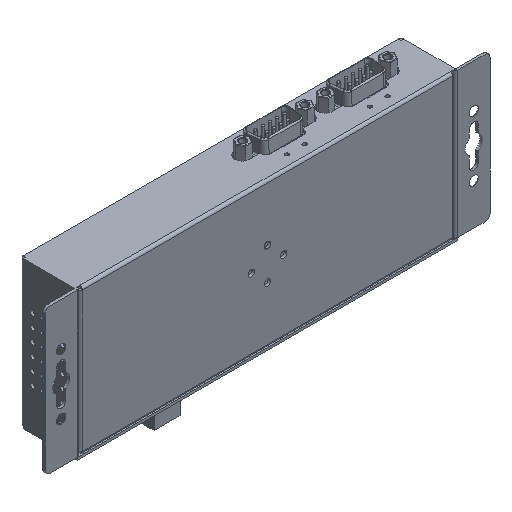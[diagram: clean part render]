
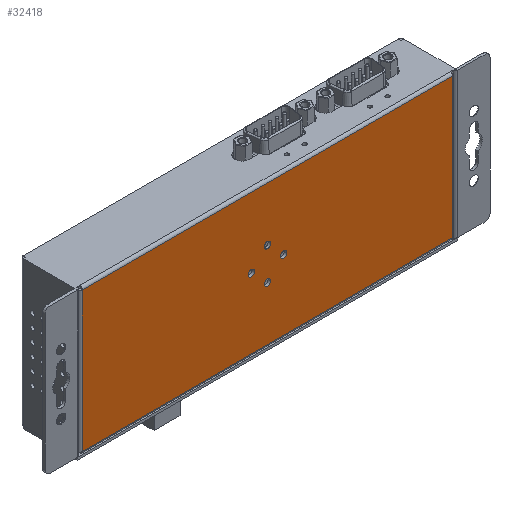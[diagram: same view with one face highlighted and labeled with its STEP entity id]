
A CAD part, isometric view. The second image highlights one B-rep face of the part: STEP entity #32418.
In plain terms, the highlighted planar face has unit normal (0, -1, 0).
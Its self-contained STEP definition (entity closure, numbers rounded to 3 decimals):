
#1626=FACE_BOUND('',#5986,.T.);
#1627=FACE_BOUND('',#5987,.T.);
#1628=FACE_BOUND('',#5988,.T.);
#1629=FACE_BOUND('',#5989,.T.);
#2319=CIRCLE('',#35047,1.265);
#2321=CIRCLE('',#35050,1.265);
#2323=CIRCLE('',#35053,1.265);
#2325=CIRCLE('',#35056,1.265);
#3911=FACE_OUTER_BOUND('',#5985,.T.);
#5985=EDGE_LOOP('',(#28178,#28179,#28180,#28181));
#5986=EDGE_LOOP('',(#28182));
#5987=EDGE_LOOP('',(#28183));
#5988=EDGE_LOOP('',(#28184));
#5989=EDGE_LOOP('',(#28185));
#9077=LINE('',#67379,#12302);
#9081=LINE('',#67395,#12306);
#9082=LINE('',#67401,#12307);
#9083=LINE('',#67402,#12308);
#12302=VECTOR('',#42469,10.);
#12306=VECTOR('',#42493,10.);
#12307=VECTOR('',#42502,10.);
#12308=VECTOR('',#42503,10.);
#15435=VERTEX_POINT('',#67169);
#15437=VERTEX_POINT('',#67175);
#15439=VERTEX_POINT('',#67181);
#15441=VERTEX_POINT('',#67187);
#15484=VERTEX_POINT('',#67365);
#15485=VERTEX_POINT('',#67369);
#15488=VERTEX_POINT('',#67394);
#15489=VERTEX_POINT('',#67400);
#19731=EDGE_CURVE('',#15435,#15435,#2319,.T.);
#19734=EDGE_CURVE('',#15437,#15437,#2321,.T.);
#19737=EDGE_CURVE('',#15439,#15439,#2323,.T.);
#19740=EDGE_CURVE('',#15441,#15441,#2325,.T.);
#19835=EDGE_CURVE('',#15484,#15485,#9077,.T.);
#19843=EDGE_CURVE('',#15488,#15484,#9081,.T.);
#19846=EDGE_CURVE('',#15485,#15489,#9082,.T.);
#19847=EDGE_CURVE('',#15489,#15488,#9083,.T.);
#28178=ORIENTED_EDGE('',*,*,#19835,.T.);
#28179=ORIENTED_EDGE('',*,*,#19846,.T.);
#28180=ORIENTED_EDGE('',*,*,#19847,.T.);
#28181=ORIENTED_EDGE('',*,*,#19843,.T.);
#28182=ORIENTED_EDGE('',*,*,#19731,.T.);
#28183=ORIENTED_EDGE('',*,*,#19734,.T.);
#28184=ORIENTED_EDGE('',*,*,#19737,.T.);
#28185=ORIENTED_EDGE('',*,*,#19740,.T.);
#30761=PLANE('',#35142);
#32418=ADVANCED_FACE('',(#3911,#1626,#1627,#1628,#1629),#30761,.T.);
#35047=AXIS2_PLACEMENT_3D('',#67170,#42229,#42230);
#35050=AXIS2_PLACEMENT_3D('',#67176,#42236,#42237);
#35053=AXIS2_PLACEMENT_3D('',#67182,#42243,#42244);
#35056=AXIS2_PLACEMENT_3D('',#67188,#42250,#42251);
#35142=AXIS2_PLACEMENT_3D('',#67399,#42500,#42501);
#42229=DIRECTION('center_axis',(0.,1.,0.));
#42230=DIRECTION('ref_axis',(0.,0.,-1.));
#42236=DIRECTION('center_axis',(0.,1.,0.));
#42237=DIRECTION('ref_axis',(0.,0.,-1.));
#42243=DIRECTION('center_axis',(0.,1.,0.));
#42244=DIRECTION('ref_axis',(0.,0.,-1.));
#42250=DIRECTION('center_axis',(0.,1.,0.));
#42251=DIRECTION('ref_axis',(0.,0.,-1.));
#42469=DIRECTION('',(1.,0.,0.));
#42493=DIRECTION('',(0.,0.,-1.));
#42500=DIRECTION('center_axis',(0.,-1.,0.));
#42501=DIRECTION('ref_axis',(1.,0.,0.));
#42502=DIRECTION('',(0.,0.,1.));
#42503=DIRECTION('',(-1.,0.,0.));
#67169=CARTESIAN_POINT('',(70.59,-5.53,-32.566));
#67170=CARTESIAN_POINT('Origin',(70.59,-5.53,-33.83));
#67175=CARTESIAN_POINT('',(70.59,-5.53,-19.566));
#67176=CARTESIAN_POINT('Origin',(70.59,-5.53,-20.83));
#67181=CARTESIAN_POINT('',(64.09,-5.53,-26.066));
#67182=CARTESIAN_POINT('Origin',(64.09,-5.53,-27.33));
#67187=CARTESIAN_POINT('',(77.09,-5.53,-26.066));
#67188=CARTESIAN_POINT('Origin',(77.09,-5.53,-27.33));
#67365=CARTESIAN_POINT('',(-3.825,-5.53,-55.445));
#67369=CARTESIAN_POINT('',(145.005,-5.53,-55.445));
#67379=CARTESIAN_POINT('',(33.383,-5.53,-55.445));
#67394=CARTESIAN_POINT('',(-3.825,-5.53,0.785));
#67395=CARTESIAN_POINT('',(-3.825,-5.53,-13.273));
#67399=CARTESIAN_POINT('Origin',(70.59,-5.53,-27.33));
#67400=CARTESIAN_POINT('',(145.005,-5.53,0.785));
#67401=CARTESIAN_POINT('',(145.005,-5.53,-41.893));
#67402=CARTESIAN_POINT('',(32.878,-5.53,0.785));
